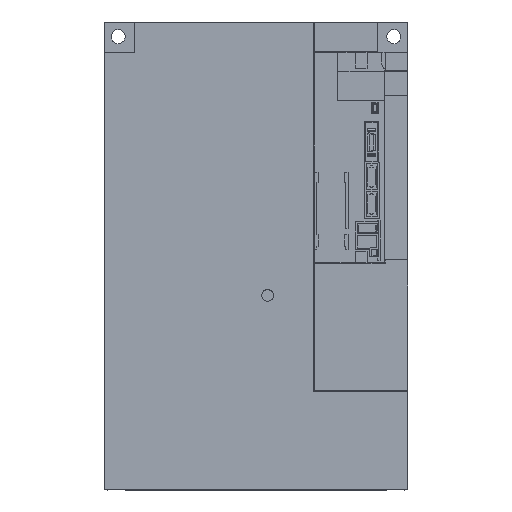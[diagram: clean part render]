
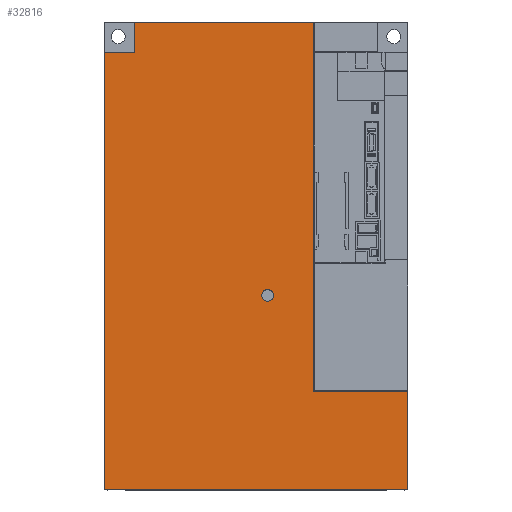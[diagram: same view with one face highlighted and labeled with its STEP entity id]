
A CAD part, top view. The second image highlights one B-rep face of the part: STEP entity #32816.
In plain terms, the highlighted planar face has unit normal (0, 0, 1).
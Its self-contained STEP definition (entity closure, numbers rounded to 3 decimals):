
#793 = VERTEX_POINT ( 'NONE', #8305 ) ;
#797 = EDGE_CURVE ( 'NONE', #826, #793, #8367, .T. ) ;
#808 = VERTEX_POINT ( 'NONE', #8348 ) ;
#821 = EDGE_CURVE ( 'NONE', #824, #826, #8388, .T. ) ;
#824 = VERTEX_POINT ( 'NONE', #8383 ) ;
#826 = VERTEX_POINT ( 'NONE', #8378 ) ;
#4118 = EDGE_CURVE ( 'NONE', #4119, #4209, #14065, .T. ) ;
#4119 = VERTEX_POINT ( 'NONE', #14124 ) ;
#4209 = VERTEX_POINT ( 'NONE', #14256 ) ;
#8305 = CARTESIAN_POINT ( 'NONE',  ( 130., -200., 27. ) ) ;
#8348 = CARTESIAN_POINT ( 'NONE',  ( 130., -116., 27. ) ) ;
#8364 = DIRECTION ( 'NONE',  ( 1., 0., 0. ) ) ;
#8365 = VECTOR ( 'NONE', #8364, 1000. ) ;
#8366 = CARTESIAN_POINT ( 'NONE',  ( 0., -200., 27. ) ) ;
#8367 = LINE ( 'NONE', #8366, #8365 ) ;
#8378 = CARTESIAN_POINT ( 'NONE',  ( -130., -200., 27. ) ) ;
#8383 = CARTESIAN_POINT ( 'NONE',  ( -130., 174., 27. ) ) ;
#8385 = DIRECTION ( 'NONE',  ( 0., -1., 0. ) ) ;
#8386 = VECTOR ( 'NONE', #8385, 1000. ) ;
#8387 = CARTESIAN_POINT ( 'NONE',  ( -130., 0., 27. ) ) ;
#8388 = LINE ( 'NONE', #8387, #8386 ) ;
#14065 = CIRCLE ( 'NONE', #14128, 5. ) ;
#14124 = CARTESIAN_POINT ( 'NONE',  ( 15., -34., 27. ) ) ;
#14125 = DIRECTION ( 'NONE',  ( 1., 0., 0. ) ) ;
#14126 = DIRECTION ( 'NONE',  ( 0., 0., -1. ) ) ;
#14127 = CARTESIAN_POINT ( 'NONE',  ( 10., -34., 27. ) ) ;
#14128 = AXIS2_PLACEMENT_3D ( 'NONE', #14127, #14126, #14125 ) ;
#14256 = CARTESIAN_POINT ( 'NONE',  ( 5., -34., 27. ) ) ;
#22543 = CARTESIAN_POINT ( 'NONE',  ( 49.5, 200., 27. ) ) ;
#22777 = DIRECTION ( 'NONE',  ( -1., 0., 0. ) ) ;
#22778 = VECTOR ( 'NONE', #22777, 1000. ) ;
#22779 = CARTESIAN_POINT ( 'NONE',  ( 0., -116., 27. ) ) ;
#22780 = LINE ( 'NONE', #22779, #22778 ) ;
#22807 = CARTESIAN_POINT ( 'NONE',  ( 49.5, -116., 27. ) ) ;
#22862 = CARTESIAN_POINT ( 'NONE',  ( -104., 200., 27. ) ) ;
#22942 = DIRECTION ( 'NONE',  ( 0., 1., 0. ) ) ;
#22943 = VECTOR ( 'NONE', #22942, 1000. ) ;
#22944 = CARTESIAN_POINT ( 'NONE',  ( 130., 0., 27. ) ) ;
#22949 = LINE ( 'NONE', #22944, #22943 ) ;
#23005 = DIRECTION ( 'NONE',  ( 0., 1., 0. ) ) ;
#23006 = VECTOR ( 'NONE', #23005, 1000. ) ;
#23007 = CARTESIAN_POINT ( 'NONE',  ( 49.5, 0., 27. ) ) ;
#23008 = LINE ( 'NONE', #23007, #23006 ) ;
#23149 = CARTESIAN_POINT ( 'NONE',  ( -104., 174., 27. ) ) ;
#23169 = DIRECTION ( 'NONE',  ( 0., -1., 0. ) ) ;
#23170 = VECTOR ( 'NONE', #23169, 1000. ) ;
#23171 = CARTESIAN_POINT ( 'NONE',  ( -104., 0., 27. ) ) ;
#23172 = LINE ( 'NONE', #23171, #23170 ) ;
#23252 = DIRECTION ( 'NONE',  ( -1., 0., 0. ) ) ;
#23253 = VECTOR ( 'NONE', #23252, 1000. ) ;
#23254 = CARTESIAN_POINT ( 'NONE',  ( 0., 200., 27. ) ) ;
#23255 = LINE ( 'NONE', #23254, #23253 ) ;
#23529 = DIRECTION ( 'NONE',  ( -1., 0., 0. ) ) ;
#23530 = VECTOR ( 'NONE', #23529, 1000. ) ;
#23531 = CARTESIAN_POINT ( 'NONE',  ( 0., 174., 27. ) ) ;
#23532 = LINE ( 'NONE', #23531, #23530 ) ;
#24140 = DIRECTION ( 'NONE',  ( 1., 0., 0. ) ) ;
#24141 = DIRECTION ( 'NONE',  ( 0., 0., 1. ) ) ;
#24142 = CARTESIAN_POINT ( 'NONE',  ( 0., 0., 27. ) ) ;
#24143 = AXIS2_PLACEMENT_3D ( 'NONE', #24142, #24141, #24140 ) ;
#24144 = PLANE ( 'NONE',  #24143 ) ;
#24145 = FACE_OUTER_BOUND ( 'NONE', #32791, .T. ) ;
#24146 = FACE_BOUND ( 'NONE', #32290, .T. ) ;
#24213 = DIRECTION ( 'NONE',  ( 1., 0., 0. ) ) ;
#24214 = DIRECTION ( 'NONE',  ( 0., 0., -1. ) ) ;
#24215 = CARTESIAN_POINT ( 'NONE',  ( 10., -34., 27. ) ) ;
#24216 = AXIS2_PLACEMENT_3D ( 'NONE', #24215, #24214, #24213 ) ;
#24217 = CIRCLE ( 'NONE', #24216, 5. ) ;
#31173 = VERTEX_POINT ( 'NONE', #22543 ) ;
#32044 = VERTEX_POINT ( 'NONE', #22807 ) ;
#32060 = EDGE_CURVE ( 'NONE', #808, #32044, #22780, .T. ) ;
#32094 = VERTEX_POINT ( 'NONE', #22862 ) ;
#32113 = EDGE_CURVE ( 'NONE', #793, #808, #22949, .T. ) ;
#32164 = EDGE_CURVE ( 'NONE', #32044, #31173, #23008, .T. ) ;
#32217 = VERTEX_POINT ( 'NONE', #23149 ) ;
#32252 = EDGE_CURVE ( 'NONE', #32094, #32217, #23172, .T. ) ;
#32290 = EDGE_LOOP ( 'NONE', ( #32789, #32803 ) ) ;
#32298 = EDGE_CURVE ( 'NONE', #31173, #32094, #23255, .T. ) ;
#32440 = ORIENTED_EDGE ( 'NONE', *, *, #32447, .T. ) ;
#32447 = EDGE_CURVE ( 'NONE', #32217, #824, #23532, .T. ) ;
#32466 = ORIENTED_EDGE ( 'NONE', *, *, #32113, .T. ) ;
#32470 = ORIENTED_EDGE ( 'NONE', *, *, #797, .T. ) ;
#32473 = ORIENTED_EDGE ( 'NONE', *, *, #821, .T. ) ;
#32479 = ORIENTED_EDGE ( 'NONE', *, *, #32252, .T. ) ;
#32789 = ORIENTED_EDGE ( 'NONE', *, *, #4118, .T. ) ;
#32791 = EDGE_LOOP ( 'NONE', ( #32479, #32440, #32473, #32470, #32466, #32874, #32870, #32876 ) ) ;
#32803 = ORIENTED_EDGE ( 'NONE', *, *, #32819, .T. ) ;
#32816 = ADVANCED_FACE ( 'NONE', ( #24146, #24145 ), #24144, .T. ) ;
#32819 = EDGE_CURVE ( 'NONE', #4209, #4119, #24217, .T. ) ;
#32870 = ORIENTED_EDGE ( 'NONE', *, *, #32164, .T. ) ;
#32874 = ORIENTED_EDGE ( 'NONE', *, *, #32060, .T. ) ;
#32876 = ORIENTED_EDGE ( 'NONE', *, *, #32298, .T. ) ;
